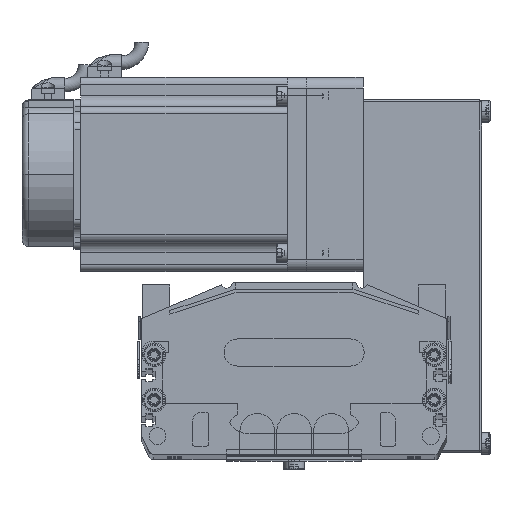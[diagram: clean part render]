
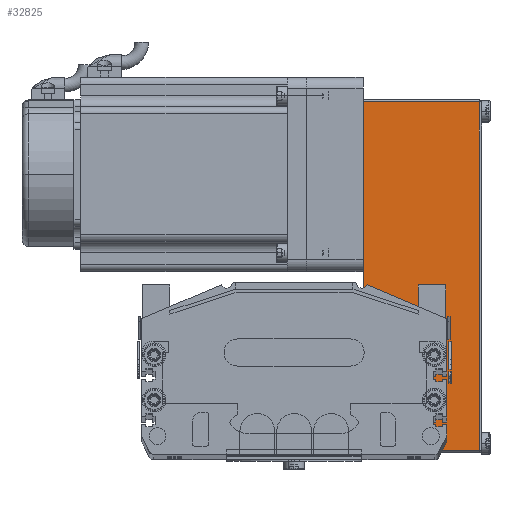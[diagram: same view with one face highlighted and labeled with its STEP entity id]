
A CAD part, top view. The second image highlights one B-rep face of the part: STEP entity #32825.
In plain terms, the highlighted planar face has unit normal (0, 0, 1) as drawn and (0, -1, 0) by its records, which use the part's own axes.
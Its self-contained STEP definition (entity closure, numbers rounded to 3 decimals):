
#1942 = CARTESIAN_POINT ( 'NONE',  ( 31., -40., 51.5 ) ) ;
#2052 = PLANE ( 'NONE',  #2140 ) ;
#2069 = CARTESIAN_POINT ( 'NONE',  ( 31., -40., 0. ) ) ;
#2095 = CARTESIAN_POINT ( 'NONE',  ( -123.2, -40., 51.5 ) ) ;
#2116 = DIRECTION ( 'NONE',  ( 1., 0., 0. ) ) ;
#2117 = VECTOR ( 'NONE', #2116, 1000. ) ;
#2118 = CARTESIAN_POINT ( 'NONE',  ( 32., -40., 0. ) ) ;
#2120 = CARTESIAN_POINT ( 'NONE',  ( -123.2, -40., 0. ) ) ;
#2137 = DIRECTION ( 'NONE',  ( -1., 0., 0. ) ) ;
#2138 = DIRECTION ( 'NONE',  ( 0., 1., 0. ) ) ;
#2139 = CARTESIAN_POINT ( 'NONE',  ( 32., -40., 52.5 ) ) ;
#2140 = AXIS2_PLACEMENT_3D ( 'NONE', #2139, #2138, #2137 ) ;
#2163 = FACE_OUTER_BOUND ( 'NONE', #32829, .T. ) ;
#2172 = LINE ( 'NONE', #2118, #2117 ) ;
#2197 = DIRECTION ( 'NONE',  ( 0., 0., -1. ) ) ;
#2210 = CARTESIAN_POINT ( 'NONE',  ( -123.2, -40., 52.5 ) ) ;
#2221 = LINE ( 'NONE', #2210, #2321 ) ;
#2321 = VECTOR ( 'NONE', #2197, 1000. ) ;
#2762 = DIRECTION ( 'NONE',  ( 0., 0., 1. ) ) ;
#2763 = VECTOR ( 'NONE', #2762, 1000. ) ;
#2894 = LINE ( 'NONE', #3063, #2763 ) ;
#2899 = LINE ( 'NONE', #3052, #3050 ) ;
#3049 = DIRECTION ( 'NONE',  ( -1., 0., 0. ) ) ;
#3050 = VECTOR ( 'NONE', #3049, 1000. ) ;
#3052 = CARTESIAN_POINT ( 'NONE',  ( 32., -40., 51.5 ) ) ;
#3063 = CARTESIAN_POINT ( 'NONE',  ( 31., -40., 52.5 ) ) ;
#32760 = VERTEX_POINT ( 'NONE', #2069 ) ;
#32762 = VERTEX_POINT ( 'NONE', #2120 ) ;
#32774 = EDGE_CURVE ( 'NONE', #32762, #32760, #2172, .T. ) ;
#32821 = ORIENTED_EDGE ( 'NONE', *, *, #33378, .T. ) ;
#32825 = ADVANCED_FACE ( 'NONE', ( #2163 ), #2052, .F. ) ;
#32829 = EDGE_LOOP ( 'NONE', ( #32834, #32821, #33397, #33382 ) ) ;
#32834 = ORIENTED_EDGE ( 'NONE', *, *, #32774, .T. ) ;
#32837 = VERTEX_POINT ( 'NONE', #2095 ) ;
#32874 = VERTEX_POINT ( 'NONE', #1942 ) ;
#32900 = EDGE_CURVE ( 'NONE', #32837, #32762, #2221, .T. ) ;
#33378 = EDGE_CURVE ( 'NONE', #32760, #32874, #2894, .T. ) ;
#33382 = ORIENTED_EDGE ( 'NONE', *, *, #32900, .T. ) ;
#33397 = ORIENTED_EDGE ( 'NONE', *, *, #33399, .T. ) ;
#33399 = EDGE_CURVE ( 'NONE', #32874, #32837, #2899, .T. ) ;
